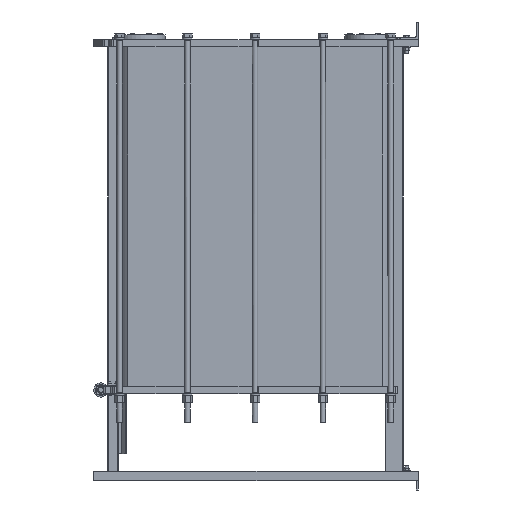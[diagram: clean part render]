
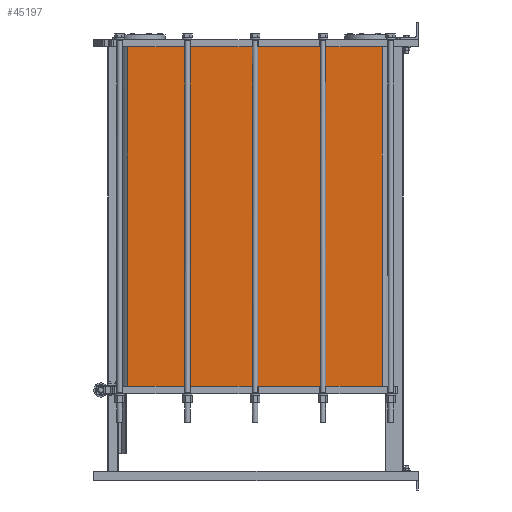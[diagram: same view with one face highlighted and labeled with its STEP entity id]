
A CAD part, left-side view. The second image highlights one B-rep face of the part: STEP entity #45197.
In plain terms, the highlighted planar face has unit normal (-1, 0, 0).
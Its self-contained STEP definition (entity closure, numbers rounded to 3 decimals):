
#1578 = AXIS2_PLACEMENT_3D ( 'NONE', #123761, #100553, #56576 ) ;
#23075 = ORIENTED_EDGE ( 'NONE', *, *, #131270, .F. ) ;
#24104 = DIRECTION ( 'NONE',  ( 0., 0., -1. ) ) ;
#24587 = CARTESIAN_POINT ( 'NONE',  ( 56., 1641.72, -140. ) ) ;
#37224 = VERTEX_POINT ( 'NONE', #80120 ) ;
#40979 = EDGE_CURVE ( 'NONE', #37224, #132605, #94899, .T. ) ;
#41138 = ORIENTED_EDGE ( 'NONE', *, *, #40979, .F. ) ;
#45197 = ADVANCED_FACE ( 'NONE', ( #63315 ), #146136, .T. ) ;
#50214 = EDGE_CURVE ( 'NONE', #128661, #132605, #140494, .T. ) ;
#56576 = DIRECTION ( 'NONE',  ( 0., 1., 0. ) ) ;
#59401 = EDGE_LOOP ( 'NONE', ( #23075, #60047, #41138, #123376 ) ) ;
#60047 = ORIENTED_EDGE ( 'NONE', *, *, #50214, .T. ) ;
#60656 = DIRECTION ( 'NONE',  ( 0., 0., -1. ) ) ;
#63315 = FACE_OUTER_BOUND ( 'NONE', #59401, .T. ) ;
#64811 = VECTOR ( 'NONE', #85050, 1000. ) ;
#68803 = EDGE_CURVE ( 'NONE', #84996, #37224, #141318, .T. ) ;
#71035 = CARTESIAN_POINT ( 'NONE',  ( 56., 1641.72, -140. ) ) ;
#71411 = CARTESIAN_POINT ( 'NONE',  ( 56., 202.28, -140. ) ) ;
#80120 = CARTESIAN_POINT ( 'NONE',  ( 56., 202.28, -2060. ) ) ;
#84996 = VERTEX_POINT ( 'NONE', #71411 ) ;
#85050 = DIRECTION ( 'NONE',  ( 0., 1., 0. ) ) ;
#86305 = VECTOR ( 'NONE', #24104, 1000. ) ;
#94899 = LINE ( 'NONE', #119189, #64811 ) ;
#100553 = DIRECTION ( 'NONE',  ( -1., 0., 0. ) ) ;
#114125 = CARTESIAN_POINT ( 'NONE',  ( 56., 922., -140. ) ) ;
#119189 = CARTESIAN_POINT ( 'NONE',  ( 56., 922., -2060. ) ) ;
#122510 = CARTESIAN_POINT ( 'NONE',  ( 56., 1641.72, -2060. ) ) ;
#123376 = ORIENTED_EDGE ( 'NONE', *, *, #68803, .F. ) ;
#123761 = CARTESIAN_POINT ( 'NONE',  ( 56., 202.28, -140. ) ) ;
#124467 = VECTOR ( 'NONE', #60656, 1000. ) ;
#125972 = DIRECTION ( 'NONE',  ( 0., -1., 0. ) ) ;
#126539 = VECTOR ( 'NONE', #125972, 1000. ) ;
#128661 = VERTEX_POINT ( 'NONE', #24587 ) ;
#130063 = LINE ( 'NONE', #114125, #126539 ) ;
#131270 = EDGE_CURVE ( 'NONE', #128661, #84996, #130063, .T. ) ;
#132605 = VERTEX_POINT ( 'NONE', #122510 ) ;
#138590 = CARTESIAN_POINT ( 'NONE',  ( 56., 202.28, -140. ) ) ;
#140494 = LINE ( 'NONE', #71035, #124467 ) ;
#141318 = LINE ( 'NONE', #138590, #86305 ) ;
#146136 = PLANE ( 'NONE',  #1578 ) ;
